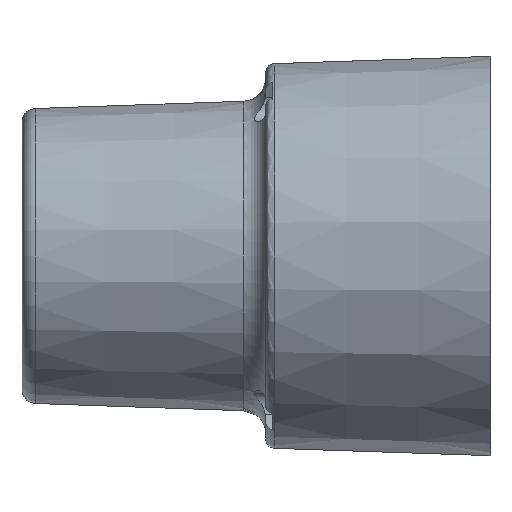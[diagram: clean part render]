
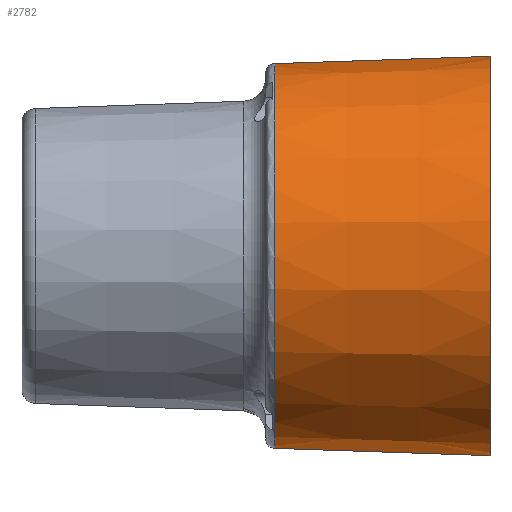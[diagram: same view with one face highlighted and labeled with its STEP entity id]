
A CAD part, left-side view. The second image highlights one B-rep face of the part: STEP entity #2782.
In plain terms, the highlighted conical face has half-angle 1.939 degrees and reference radius 43 mm.
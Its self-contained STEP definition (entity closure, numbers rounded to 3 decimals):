
#90 = ORIENTED_EDGE ( 'NONE', *, *, #3952, .T. ) ;
#209 = ORIENTED_EDGE ( 'NONE', *, *, #2068, .F. ) ;
#216 = VERTEX_POINT ( 'NONE', #2734 ) ;
#258 = VECTOR ( 'NONE', #2356, 1000. ) ;
#338 = DIRECTION ( 'NONE',  ( 0., 0., 1. ) ) ;
#420 = CARTESIAN_POINT ( 'NONE',  ( 0., 0., 43. ) ) ;
#464 = AXIS2_PLACEMENT_3D ( 'NONE', #3857, #4205, #338 ) ;
#645 = AXIS2_PLACEMENT_3D ( 'NONE', #3346, #1551, #857 ) ;
#857 = DIRECTION ( 'NONE',  ( 0., 0., 1. ) ) ;
#1153 = CARTESIAN_POINT ( 'NONE',  ( 0., 46.368, -41.43 ) ) ;
#1455 = CONICAL_SURFACE ( 'NONE', #645, 43., 0.034 ) ;
#1551 = DIRECTION ( 'NONE',  ( 0., -1., 0. ) ) ;
#1579 = CIRCLE ( 'NONE', #464, 43. ) ;
#1672 = EDGE_LOOP ( 'NONE', ( #209, #90, #2087, #4533 ) ) ;
#1775 = CARTESIAN_POINT ( 'NONE',  ( 0., 0., -43. ) ) ;
#1869 = DIRECTION ( 'NONE',  ( 0., 0., -1. ) ) ;
#2046 = DIRECTION ( 'NONE',  ( 0., -0.999, -0.034 ) ) ;
#2068 = EDGE_CURVE ( 'NONE', #3970, #2306, #2375, .T. ) ;
#2087 = ORIENTED_EDGE ( 'NONE', *, *, #3537, .T. ) ;
#2195 = DIRECTION ( 'NONE',  ( 0., -1., 0. ) ) ;
#2241 = CIRCLE ( 'NONE', #3446, 41.43 ) ;
#2245 = FACE_OUTER_BOUND ( 'NONE', #1672, .T. ) ;
#2306 = VERTEX_POINT ( 'NONE', #420 ) ;
#2356 = DIRECTION ( 'NONE',  ( 0., -0.999, 0.034 ) ) ;
#2375 = LINE ( 'NONE', #4477, #258 ) ;
#2515 = CARTESIAN_POINT ( 'NONE',  ( 0., 46.368, 41.43 ) ) ;
#2610 = VECTOR ( 'NONE', #2046, 1000. ) ;
#2734 = CARTESIAN_POINT ( 'NONE',  ( 0., 0., -43. ) ) ;
#2782 = ADVANCED_FACE ( 'NONE', ( #2245 ), #1455, .T. ) ;
#2905 = VERTEX_POINT ( 'NONE', #1153 ) ;
#3346 = CARTESIAN_POINT ( 'NONE',  ( 0., 0., 0. ) ) ;
#3446 = AXIS2_PLACEMENT_3D ( 'NONE', #4315, #2195, #1869 ) ;
#3537 = EDGE_CURVE ( 'NONE', #2905, #216, #3827, .T. ) ;
#3827 = LINE ( 'NONE', #1775, #2610 ) ;
#3857 = CARTESIAN_POINT ( 'NONE',  ( 0., 0., 0. ) ) ;
#3898 = EDGE_CURVE ( 'NONE', #216, #2306, #1579, .T. ) ;
#3952 = EDGE_CURVE ( 'NONE', #3970, #2905, #2241, .T. ) ;
#3970 = VERTEX_POINT ( 'NONE', #2515 ) ;
#4205 = DIRECTION ( 'NONE',  ( 0., 1., 0. ) ) ;
#4315 = CARTESIAN_POINT ( 'NONE',  ( 0., 46.368, 0. ) ) ;
#4477 = CARTESIAN_POINT ( 'NONE',  ( 0., 0., 43. ) ) ;
#4533 = ORIENTED_EDGE ( 'NONE', *, *, #3898, .T. ) ;
